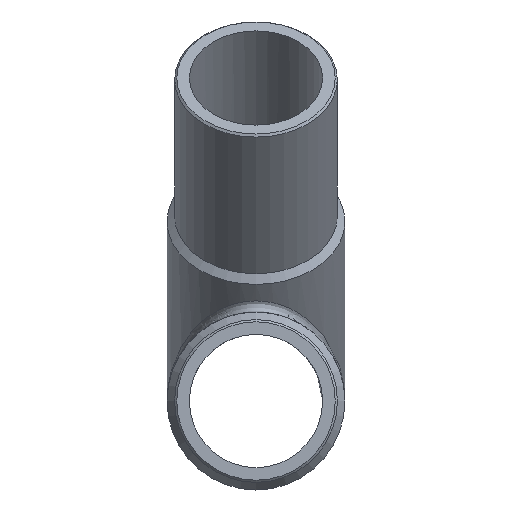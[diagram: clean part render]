
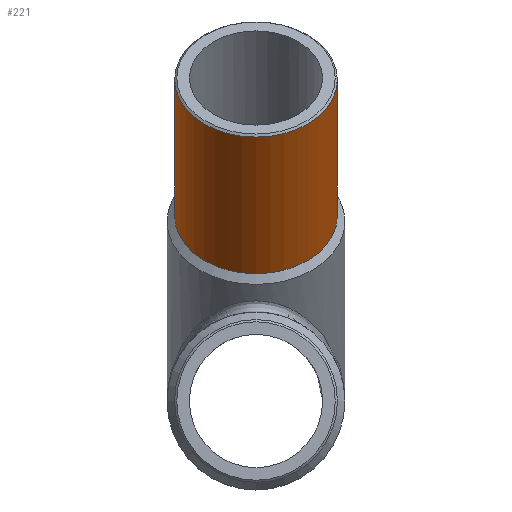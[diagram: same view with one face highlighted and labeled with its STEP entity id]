
A CAD part, left-side view. The second image highlights one B-rep face of the part: STEP entity #221.
In plain terms, the highlighted cylindrical face has radius 37.5 mm (diameter 75 mm), a full revolution.
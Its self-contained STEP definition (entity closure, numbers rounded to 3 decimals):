
#41=CIRCLE('',#267,37.5);
#42=CIRCLE('',#268,37.5);
#66=ORIENTED_EDGE('',*,*,#102,.T.);
#67=ORIENTED_EDGE('',*,*,#103,.T.);
#102=EDGE_CURVE('',#123,#123,#41,.T.);
#103=EDGE_CURVE('',#124,#124,#42,.T.);
#123=VERTEX_POINT('',#396);
#124=VERTEX_POINT('',#398);
#152=EDGE_LOOP('',(#66));
#153=EDGE_LOOP('',(#67));
#188=FACE_BOUND('',#152,.T.);
#189=FACE_BOUND('',#153,.T.);
#210=CYLINDRICAL_SURFACE('',#266,37.5);
#221=ADVANCED_FACE('',(#188,#189),#210,.T.);
#266=AXIS2_PLACEMENT_3D('',#394,#327,#328);
#267=AXIS2_PLACEMENT_3D('',#395,#329,#330);
#268=AXIS2_PLACEMENT_3D('',#397,#331,#332);
#327=DIRECTION('',(-0.707,0.,0.707));
#328=DIRECTION('',(0.707,0.,0.707));
#329=DIRECTION('',(0.707,0.,-0.707));
#330=DIRECTION('',(-0.707,0.,-0.707));
#331=DIRECTION('',(-0.707,0.,0.707));
#332=DIRECTION('',(0.707,0.,0.707));
#394=CARTESIAN_POINT('',(55.017,0.,0.));
#395=CARTESIAN_POINT('',(-93.109,0.,148.127));
#396=CARTESIAN_POINT('',(-119.626,0.,121.61));
#397=CARTESIAN_POINT('',(-30.177,0.,85.194));
#398=CARTESIAN_POINT('',(-3.66,0.,111.711));
